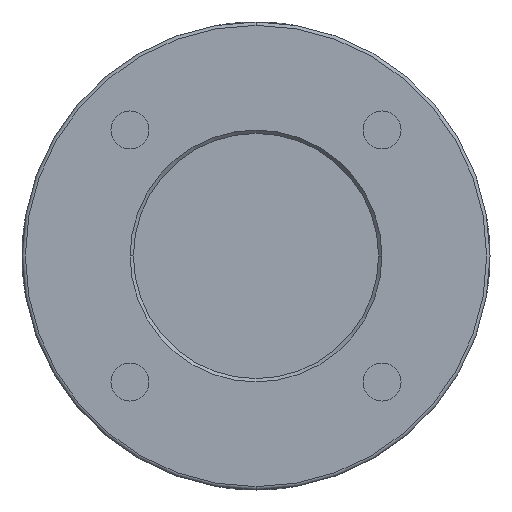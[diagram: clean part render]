
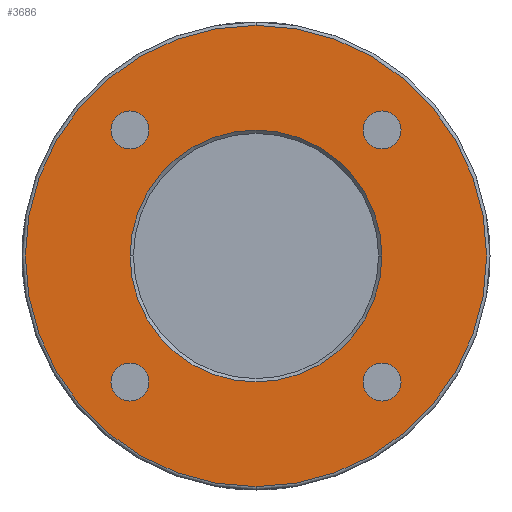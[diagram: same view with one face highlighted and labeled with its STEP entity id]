
A CAD part, left-side view. The second image highlights one B-rep face of the part: STEP entity #3686.
In plain terms, the highlighted planar face has unit normal (-1, 0, 0).
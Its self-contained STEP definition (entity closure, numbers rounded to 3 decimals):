
#199=CARTESIAN_POINT('',(0.,11.314,11.314));
#200=DIRECTION('',(1.,0.,0.));
#201=DIRECTION('',(0.,1.,0.));
#202=AXIS2_PLACEMENT_3D('',#199,#200,#201);
#204=CARTESIAN_POINT('',(0.,11.314,11.314));
#205=DIRECTION('',(1.,0.,0.));
#206=DIRECTION('',(0.,-1.,0.));
#207=AXIS2_PLACEMENT_3D('',#204,#205,#206);
#209=CARTESIAN_POINT('',(0.,-11.314,11.314));
#210=DIRECTION('',(1.,0.,0.));
#211=DIRECTION('',(0.,1.,0.));
#212=AXIS2_PLACEMENT_3D('',#209,#210,#211);
#214=CARTESIAN_POINT('',(0.,-11.314,11.314));
#215=DIRECTION('',(1.,0.,0.));
#216=DIRECTION('',(0.,-1.,0.));
#217=AXIS2_PLACEMENT_3D('',#214,#215,#216);
#219=CARTESIAN_POINT('',(0.,-11.314,-11.314));
#220=DIRECTION('',(1.,0.,0.));
#221=DIRECTION('',(0.,1.,0.));
#222=AXIS2_PLACEMENT_3D('',#219,#220,#221);
#224=CARTESIAN_POINT('',(0.,-11.314,-11.314));
#225=DIRECTION('',(1.,0.,0.));
#226=DIRECTION('',(0.,-1.,0.));
#227=AXIS2_PLACEMENT_3D('',#224,#225,#226);
#229=CARTESIAN_POINT('',(0.,11.314,-11.314));
#230=DIRECTION('',(1.,0.,0.));
#231=DIRECTION('',(0.,1.,0.));
#232=AXIS2_PLACEMENT_3D('',#229,#230,#231);
#234=CARTESIAN_POINT('',(0.,11.314,-11.314));
#235=DIRECTION('',(1.,0.,0.));
#236=DIRECTION('',(0.,-1.,0.));
#237=AXIS2_PLACEMENT_3D('',#234,#235,#236);
#239=CARTESIAN_POINT('',(0.,0.,0.));
#240=DIRECTION('',(1.,0.,0.));
#241=DIRECTION('',(0.,1.,0.));
#242=AXIS2_PLACEMENT_3D('',#239,#240,#241);
#257=CARTESIAN_POINT('',(0.,0.,0.));
#258=DIRECTION('',(1.,0.,0.));
#259=DIRECTION('',(0.,-1.,0.));
#260=AXIS2_PLACEMENT_3D('',#257,#258,#259);
#285=CARTESIAN_POINT('',(0.,0.,0.));
#286=DIRECTION('',(-1.,0.,0.));
#287=DIRECTION('',(0.,0.,-1.));
#288=AXIS2_PLACEMENT_3D('',#285,#286,#287);
#300=CARTESIAN_POINT('',(0.,0.,0.));
#301=DIRECTION('',(-1.,0.,0.));
#302=DIRECTION('',(0.,0.,1.));
#303=AXIS2_PLACEMENT_3D('',#300,#301,#302);
#2999=CARTESIAN_POINT('',(0.,0.,-20.7));
#3000=CARTESIAN_POINT('',(0.,0.,20.7));
#3001=VERTEX_POINT('',#2999);
#3002=VERTEX_POINT('',#3000);
#3015=CARTESIAN_POINT('',(0.,13.014,11.314));
#3016=CARTESIAN_POINT('',(0.,9.614,11.314));
#3017=VERTEX_POINT('',#3015);
#3018=VERTEX_POINT('',#3016);
#3023=CARTESIAN_POINT('',(0.,-9.614,11.314));
#3024=CARTESIAN_POINT('',(0.,-13.014,11.314));
#3025=VERTEX_POINT('',#3023);
#3026=VERTEX_POINT('',#3024);
#3031=CARTESIAN_POINT('',(0.,-9.614,-11.314));
#3032=CARTESIAN_POINT('',(0.,-13.014,-11.314));
#3033=VERTEX_POINT('',#3031);
#3034=VERTEX_POINT('',#3032);
#3039=CARTESIAN_POINT('',(0.,13.014,-11.314));
#3040=CARTESIAN_POINT('',(0.,9.614,-11.314));
#3041=VERTEX_POINT('',#3039);
#3042=VERTEX_POINT('',#3040);
#3573=CARTESIAN_POINT('',(0.,-11.3,0.));
#3574=CARTESIAN_POINT('',(0.,11.3,0.));
#3575=VERTEX_POINT('',#3573);
#3576=VERTEX_POINT('',#3574);
#3645=CARTESIAN_POINT('',(0.,0.,0.));
#3646=DIRECTION('',(1.,0.,0.));
#3647=DIRECTION('',(0.,0.,-1.));
#3648=AXIS2_PLACEMENT_3D('',#3645,#3646,#3647);
#3649=PLANE('',#3648);
#3651=ORIENTED_EDGE('',*,*,#3650,.F.);
#3653=ORIENTED_EDGE('',*,*,#3652,.F.);
#3654=EDGE_LOOP('',(#3651,#3653));
#3655=FACE_OUTER_BOUND('',#3654,.F.);
#3657=ORIENTED_EDGE('',*,*,#3656,.F.);
#3659=ORIENTED_EDGE('',*,*,#3658,.F.);
#3660=EDGE_LOOP('',(#3657,#3659));
#3661=FACE_BOUND('',#3660,.F.);
#3663=ORIENTED_EDGE('',*,*,#3662,.F.);
#3665=ORIENTED_EDGE('',*,*,#3664,.F.);
#3666=EDGE_LOOP('',(#3663,#3665));
#3667=FACE_BOUND('',#3666,.F.);
#3669=ORIENTED_EDGE('',*,*,#3668,.F.);
#3671=ORIENTED_EDGE('',*,*,#3670,.F.);
#3672=EDGE_LOOP('',(#3669,#3671));
#3673=FACE_BOUND('',#3672,.F.);
#3675=ORIENTED_EDGE('',*,*,#3674,.F.);
#3677=ORIENTED_EDGE('',*,*,#3676,.F.);
#3678=EDGE_LOOP('',(#3675,#3677));
#3679=FACE_BOUND('',#3678,.F.);
#3681=ORIENTED_EDGE('',*,*,#3680,.F.);
#3683=ORIENTED_EDGE('',*,*,#3682,.F.);
#3684=EDGE_LOOP('',(#3681,#3683));
#3685=FACE_BOUND('',#3684,.F.);
#3686=ADVANCED_FACE('',(#3655,#3661,#3667,#3673,#3679,#3685),#3649,.F.);
#203=CIRCLE('',#202,1.7);
#208=CIRCLE('',#207,1.7);
#213=CIRCLE('',#212,1.7);
#218=CIRCLE('',#217,1.7);
#223=CIRCLE('',#222,1.7);
#228=CIRCLE('',#227,1.7);
#233=CIRCLE('',#232,1.7);
#238=CIRCLE('',#237,1.7);
#243=CIRCLE('',#242,11.3);
#261=CIRCLE('',#260,11.3);
#289=CIRCLE('',#288,20.7);
#304=CIRCLE('',#303,20.7);
#3650=EDGE_CURVE('',#3001,#3002,#289,.T.);
#3652=EDGE_CURVE('',#3002,#3001,#304,.T.);
#3656=EDGE_CURVE('',#3576,#3575,#243,.T.);
#3658=EDGE_CURVE('',#3575,#3576,#261,.T.);
#3662=EDGE_CURVE('',#3017,#3018,#203,.T.);
#3664=EDGE_CURVE('',#3018,#3017,#208,.T.);
#3668=EDGE_CURVE('',#3025,#3026,#213,.T.);
#3670=EDGE_CURVE('',#3026,#3025,#218,.T.);
#3674=EDGE_CURVE('',#3033,#3034,#223,.T.);
#3676=EDGE_CURVE('',#3034,#3033,#228,.T.);
#3680=EDGE_CURVE('',#3041,#3042,#233,.T.);
#3682=EDGE_CURVE('',#3042,#3041,#238,.T.);
